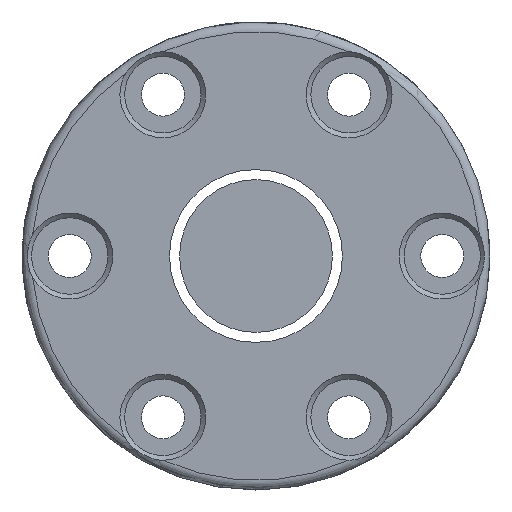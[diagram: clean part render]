
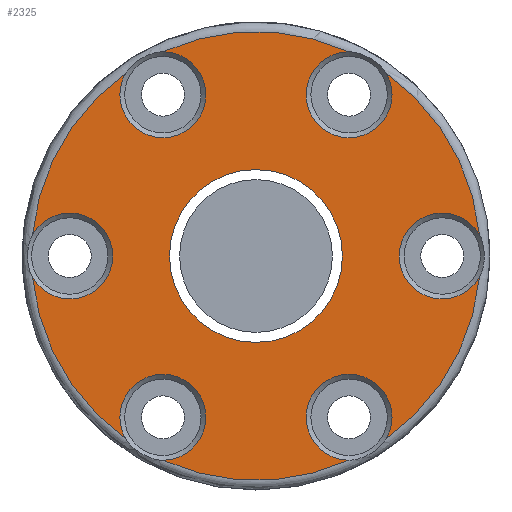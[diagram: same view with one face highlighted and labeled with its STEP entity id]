
A CAD part, left-side view. The second image highlights one B-rep face of the part: STEP entity #2325.
In plain terms, the highlighted planar face has unit normal (-1, 0, 0).
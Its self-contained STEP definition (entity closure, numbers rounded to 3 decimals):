
#30 = DIRECTION ( 'NONE',  ( 0., -1., 0. ) ) ;
#40 = VERTEX_POINT ( 'NONE', #1600 ) ;
#51 = ORIENTED_EDGE ( 'NONE', *, *, #2515, .T. ) ;
#68 = ORIENTED_EDGE ( 'NONE', *, *, #3003, .T. ) ;
#75 = VERTEX_POINT ( 'NONE', #2524 ) ;
#90 = ORIENTED_EDGE ( 'NONE', *, *, #2597, .T. ) ;
#131 = CARTESIAN_POINT ( 'NONE',  ( -45., -23.391, 2.261 ) ) ;
#135 = DIRECTION ( 'NONE',  ( 0., -1., 0. ) ) ;
#160 = CARTESIAN_POINT ( 'NONE',  ( -45., -13.653, 19.127 ) ) ;
#162 = DIRECTION ( 'NONE',  ( 1., 0., 0. ) ) ;
#165 = VERTEX_POINT ( 'NONE', #3014 ) ;
#193 = DIRECTION ( 'NONE',  ( 1., 0., 0. ) ) ;
#201 = DIRECTION ( 'NONE',  ( -1., 0., 0. ) ) ;
#209 = CIRCLE ( 'NONE', #1910, 4.5 ) ;
#257 = DIRECTION ( 'NONE',  ( 0., 1., 0. ) ) ;
#361 = CIRCLE ( 'NONE', #2901, 4.5 ) ;
#376 = ORIENTED_EDGE ( 'NONE', *, *, #1364, .T. ) ;
#384 = DIRECTION ( 'NONE',  ( -1., 0., 0. ) ) ;
#385 = DIRECTION ( 'NONE',  ( 0., -1., 0. ) ) ;
#399 = CARTESIAN_POINT ( 'NONE',  ( -45., -9.75, -16.887 ) ) ;
#407 = CIRCLE ( 'NONE', #1730, 23.5 ) ;
#416 = VERTEX_POINT ( 'NONE', #2223 ) ;
#424 = CARTESIAN_POINT ( 'NONE',  ( -45., 24.5, 0. ) ) ;
#497 = DIRECTION ( 'NONE',  ( 1., 0., 0. ) ) ;
#507 = DIRECTION ( 'NONE',  ( -1., 0., 0. ) ) ;
#522 = EDGE_CURVE ( 'NONE', #1215, #1492, #1329, .T. ) ;
#616 = DIRECTION ( 'NONE',  ( 1., 0., 0. ) ) ;
#617 = CARTESIAN_POINT ( 'NONE',  ( -45., 23.391, -2.261 ) ) ;
#620 = ORIENTED_EDGE ( 'NONE', *, *, #2429, .T. ) ;
#623 = EDGE_CURVE ( 'NONE', #1710, #1265, #736, .T. ) ;
#641 = CARTESIAN_POINT ( 'NONE',  ( -45., 9.75, -16.887 ) ) ;
#646 = VERTEX_POINT ( 'NONE', #617 ) ;
#697 = DIRECTION ( 'NONE',  ( 0., -1., 0. ) ) ;
#736 = CIRCLE ( 'NONE', #1039, 4.5 ) ;
#749 = ORIENTED_EDGE ( 'NONE', *, *, #2475, .T. ) ;
#789 = CARTESIAN_POINT ( 'NONE',  ( -45., 0., 0. ) ) ;
#828 = EDGE_CURVE ( 'NONE', #165, #1337, #209, .T. ) ;
#833 = CIRCLE ( 'NONE', #2535, 4.5 ) ;
#845 = CARTESIAN_POINT ( 'NONE',  ( -45., -19.5, 0. ) ) ;
#868 = DIRECTION ( 'NONE',  ( 0., -1., 0. ) ) ;
#920 = AXIS2_PLACEMENT_3D ( 'NONE', #1390, #201, #2062 ) ;
#959 = ORIENTED_EDGE ( 'NONE', *, *, #2833, .T. ) ;
#989 = AXIS2_PLACEMENT_3D ( 'NONE', #2613, #1684, #1650 ) ;
#1011 = ORIENTED_EDGE ( 'NONE', *, *, #623, .T. ) ;
#1026 = EDGE_CURVE ( 'NONE', #2454, #165, #1862, .T. ) ;
#1039 = AXIS2_PLACEMENT_3D ( 'NONE', #845, #162, #1791 ) ;
#1055 = ORIENTED_EDGE ( 'NONE', *, *, #522, .T. ) ;
#1078 = DIRECTION ( 'NONE',  ( 0., -1., 0. ) ) ;
#1094 = FACE_OUTER_BOUND ( 'NONE', #1282, .T. ) ;
#1147 = DIRECTION ( 'NONE',  ( 0., -1., 0. ) ) ;
#1201 = CARTESIAN_POINT ( 'NONE',  ( -45., 9.738, 21.387 ) ) ;
#1215 = VERTEX_POINT ( 'NONE', #2219 ) ;
#1223 = AXIS2_PLACEMENT_3D ( 'NONE', #1649, #2343, #257 ) ;
#1265 = VERTEX_POINT ( 'NONE', #131 ) ;
#1282 = EDGE_LOOP ( 'NONE', ( #1011, #376, #90, #1055, #68, #51, #1484, #620, #2886, #1296, #1310, #959 ) ) ;
#1296 = ORIENTED_EDGE ( 'NONE', *, *, #1026, .T. ) ;
#1310 = ORIENTED_EDGE ( 'NONE', *, *, #828, .T. ) ;
#1329 = CIRCLE ( 'NONE', #2593, 23.5 ) ;
#1337 = VERTEX_POINT ( 'NONE', #2340 ) ;
#1364 = EDGE_CURVE ( 'NONE', #1265, #2148, #1964, .T. ) ;
#1390 = CARTESIAN_POINT ( 'NONE',  ( -45., 0., 0. ) ) ;
#1436 = CARTESIAN_POINT ( 'NONE',  ( -45., 9.738, -21.387 ) ) ;
#1484 = ORIENTED_EDGE ( 'NONE', *, *, #2657, .T. ) ;
#1492 = VERTEX_POINT ( 'NONE', #1201 ) ;
#1557 = DIRECTION ( 'NONE',  ( -1., 0., 0. ) ) ;
#1600 = CARTESIAN_POINT ( 'NONE',  ( -45., 23.391, 2.261 ) ) ;
#1629 = CIRCLE ( 'NONE', #2351, 4.5 ) ;
#1649 = CARTESIAN_POINT ( 'NONE',  ( -45., 0., 0. ) ) ;
#1650 = DIRECTION ( 'NONE',  ( 0., -1., 0. ) ) ;
#1663 = CARTESIAN_POINT ( 'NONE',  ( -45., 0., 0. ) ) ;
#1684 = DIRECTION ( 'NONE',  ( -1., 0., 0. ) ) ;
#1710 = VERTEX_POINT ( 'NONE', #2212 ) ;
#1727 = DIRECTION ( 'NONE',  ( 0., -1., 0. ) ) ;
#1728 = AXIS2_PLACEMENT_3D ( 'NONE', #789, #507, #1727 ) ;
#1730 = AXIS2_PLACEMENT_3D ( 'NONE', #1663, #2764, #2119 ) ;
#1791 = DIRECTION ( 'NONE',  ( 0., -1., 0. ) ) ;
#1837 = CARTESIAN_POINT ( 'NONE',  ( -45., 9.75, 16.887 ) ) ;
#1862 = CIRCLE ( 'NONE', #989, 23.5 ) ;
#1873 = DIRECTION ( 'NONE',  ( 1., 0., 0. ) ) ;
#1894 = CARTESIAN_POINT ( 'NONE',  ( -45., 9.05, 0. ) ) ;
#1910 = AXIS2_PLACEMENT_3D ( 'NONE', #399, #616, #385 ) ;
#1964 = CIRCLE ( 'NONE', #1728, 23.5 ) ;
#2003 = AXIS2_PLACEMENT_3D ( 'NONE', #2495, #2261, #868 ) ;
#2062 = DIRECTION ( 'NONE',  ( 0., -1., 0. ) ) ;
#2103 = CARTESIAN_POINT ( 'NONE',  ( -45., 19.5, 0. ) ) ;
#2119 = DIRECTION ( 'NONE',  ( 0., -1., 0. ) ) ;
#2147 = CIRCLE ( 'NONE', #2003, 23.5 ) ;
#2148 = VERTEX_POINT ( 'NONE', #160 ) ;
#2201 = CIRCLE ( 'NONE', #1223, 9.05 ) ;
#2212 = CARTESIAN_POINT ( 'NONE',  ( -45., -23.391, -2.261 ) ) ;
#2219 = CARTESIAN_POINT ( 'NONE',  ( -45., -9.738, 21.387 ) ) ;
#2223 = CARTESIAN_POINT ( 'NONE',  ( -45., 13.653, -19.127 ) ) ;
#2261 = DIRECTION ( 'NONE',  ( -1., 0., 0. ) ) ;
#2276 = EDGE_LOOP ( 'NONE', ( #749 ) ) ;
#2305 = AXIS2_PLACEMENT_3D ( 'NONE', #2331, #1873, #30 ) ;
#2325 = ADVANCED_FACE ( 'NONE', ( #1094, #2713 ), #2520, .T. ) ;
#2331 = CARTESIAN_POINT ( 'NONE',  ( -45., -9.75, 16.887 ) ) ;
#2340 = CARTESIAN_POINT ( 'NONE',  ( -45., -13.653, -19.127 ) ) ;
#2343 = DIRECTION ( 'NONE',  ( 1., 0., 0. ) ) ;
#2351 = AXIS2_PLACEMENT_3D ( 'NONE', #2103, #2995, #697 ) ;
#2391 = CIRCLE ( 'NONE', #920, 23.5 ) ;
#2429 = EDGE_CURVE ( 'NONE', #646, #416, #2147, .T. ) ;
#2453 = EDGE_CURVE ( 'NONE', #416, #2454, #833, .T. ) ;
#2454 = VERTEX_POINT ( 'NONE', #1436 ) ;
#2466 = CARTESIAN_POINT ( 'NONE',  ( -45., 0., 0. ) ) ;
#2475 = EDGE_CURVE ( 'NONE', #2554, #2554, #2201, .T. ) ;
#2495 = CARTESIAN_POINT ( 'NONE',  ( -45., 0., 0. ) ) ;
#2515 = EDGE_CURVE ( 'NONE', #75, #40, #2391, .T. ) ;
#2520 = PLANE ( 'NONE',  #2935 ) ;
#2524 = CARTESIAN_POINT ( 'NONE',  ( -45., 13.653, 19.127 ) ) ;
#2535 = AXIS2_PLACEMENT_3D ( 'NONE', #641, #497, #1147 ) ;
#2554 = VERTEX_POINT ( 'NONE', #1894 ) ;
#2593 = AXIS2_PLACEMENT_3D ( 'NONE', #2466, #1557, #135 ) ;
#2597 = EDGE_CURVE ( 'NONE', #2148, #1215, #2947, .T. ) ;
#2613 = CARTESIAN_POINT ( 'NONE',  ( -45., 0., 0. ) ) ;
#2657 = EDGE_CURVE ( 'NONE', #40, #646, #1629, .T. ) ;
#2713 = FACE_BOUND ( 'NONE', #2276, .T. ) ;
#2732 = DIRECTION ( 'NONE',  ( 0., -1., 0. ) ) ;
#2764 = DIRECTION ( 'NONE',  ( -1., 0., 0. ) ) ;
#2833 = EDGE_CURVE ( 'NONE', #1337, #1710, #407, .T. ) ;
#2886 = ORIENTED_EDGE ( 'NONE', *, *, #2453, .T. ) ;
#2901 = AXIS2_PLACEMENT_3D ( 'NONE', #1837, #193, #2732 ) ;
#2935 = AXIS2_PLACEMENT_3D ( 'NONE', #424, #384, #1078 ) ;
#2947 = CIRCLE ( 'NONE', #2305, 4.5 ) ;
#2995 = DIRECTION ( 'NONE',  ( 1., 0., 0. ) ) ;
#3003 = EDGE_CURVE ( 'NONE', #1492, #75, #361, .T. ) ;
#3014 = CARTESIAN_POINT ( 'NONE',  ( -45., -9.738, -21.387 ) ) ;
